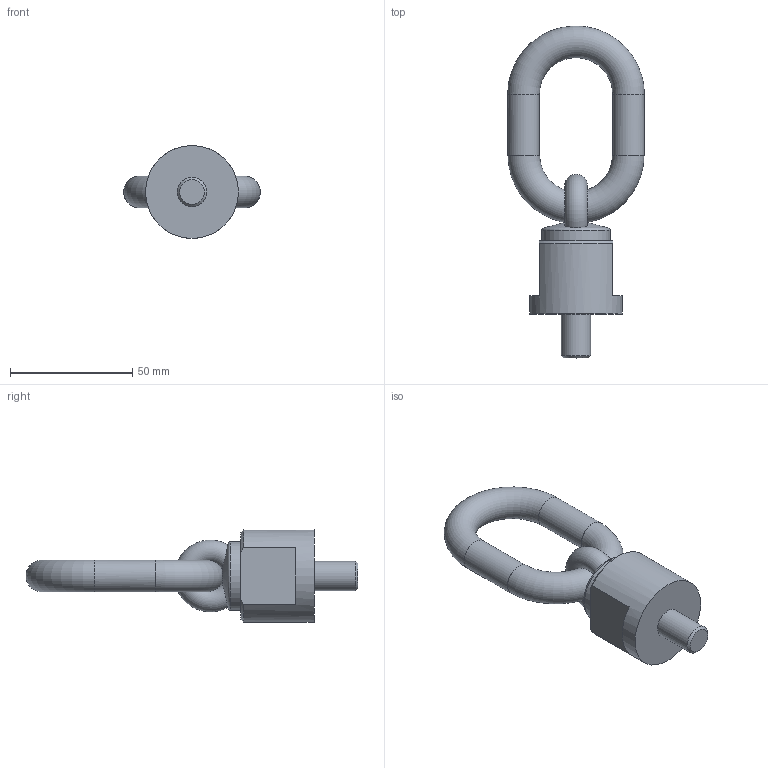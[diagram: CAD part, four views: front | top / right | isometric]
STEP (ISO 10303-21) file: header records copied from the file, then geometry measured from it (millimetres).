
FILE_DESCRIPTION( ( 'STEP AP203' ), '1' );
FILE_NAME( 'p:/temp/worker_14/temp/app_42_0201906261452500860626010e898ce_000000_00_00_000000/format_1/C800X0051018.stp', '2019-06-26T12:52:50', ( '' ), ( '' ), ' ', 'PARTsolutions', ' ' );
FILE_SCHEMA( ( 'CONFIG_CONTROL_DESIGN' ) );
Length unit declared in the file: millimetre
Products named in the file (1): _C800X0051018
Bounding box: 56 x 135.98 x 38 mm (x, y, z)
Volume: 64335 mm3; surface area: 14999.8 mm2
Topology: 1 solids, 1 shells, 27 faces, 65 edges, 40 vertices
Faces by surface type: plane 13, torus 5, cylinder 5, cone 4
Full cylindrical faces by diameter (mm): 12 x1, 13 x2, 28.2 x1, 38 x1
Entity records: 1024 total; most frequent: CARTESIAN_POINT 443, DIRECTION 114, ORIENTED_EDGE 94, AXIS2_PLACEMENT_3D 53, EDGE_CURVE 47, EDGE_LOOP 40, FACE_OUTER_BOUND 36, VERTEX_POINT 34
